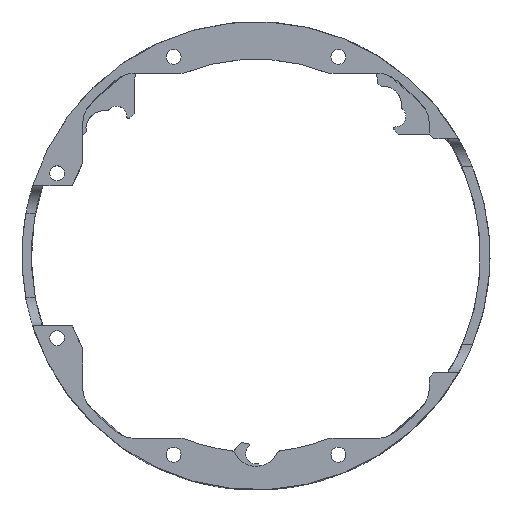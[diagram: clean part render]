
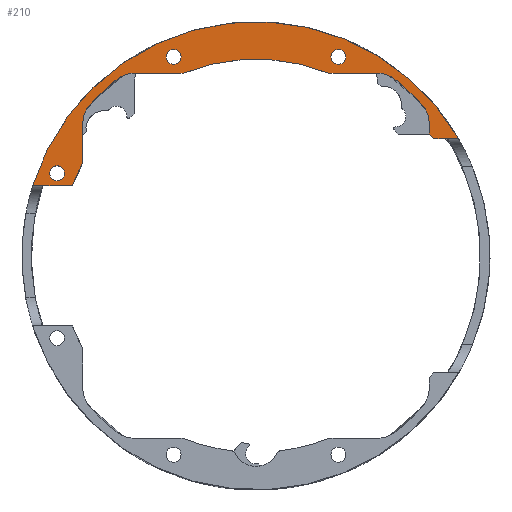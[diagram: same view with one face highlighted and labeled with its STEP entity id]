
A CAD part, top view. The second image highlights one B-rep face of the part: STEP entity #210.
In plain terms, the highlighted planar face has unit normal (0, 0, 1).
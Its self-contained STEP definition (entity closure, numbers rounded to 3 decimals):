
#105=PLANE('',#2824);
#165=FACE_BOUND('',#564,.T.);
#166=FACE_BOUND('',#565,.T.);
#167=FACE_BOUND('',#566,.T.);
#168=FACE_BOUND('',#567,.T.);
#210=ADVANCED_FACE('',(#165,#166,#167,#168),#105,.T.);
#564=EDGE_LOOP('',(#1330,#1331,#1332,#1333,#1334,#1335,#1336,#1337,#1338,
#1339,#1340,#1341,#1342,#1343,#1344,#1345));
#565=EDGE_LOOP('',(#1346));
#566=EDGE_LOOP('',(#1347));
#567=EDGE_LOOP('',(#1348));
#780=LINE('',#4614,#968);
#781=LINE('',#4617,#969);
#782=LINE('',#4619,#970);
#783=LINE('',#4620,#971);
#784=LINE('',#4621,#972);
#785=LINE('',#4626,#973);
#786=LINE('',#4630,#974);
#968=VECTOR('',#3359,1.);
#969=VECTOR('',#3360,1.);
#970=VECTOR('',#3361,1.);
#971=VECTOR('',#3362,1.);
#972=VECTOR('',#3363,1.);
#973=VECTOR('',#3368,1.);
#974=VECTOR('',#3371,1.);
#1330=ORIENTED_EDGE('',*,*,#2343,.F.);
#1331=ORIENTED_EDGE('',*,*,#2344,.T.);
#1332=ORIENTED_EDGE('',*,*,#2345,.F.);
#1333=ORIENTED_EDGE('',*,*,#2132,.F.);
#1334=ORIENTED_EDGE('',*,*,#2346,.F.);
#1335=ORIENTED_EDGE('',*,*,#2251,.T.);
#1336=ORIENTED_EDGE('',*,*,#2347,.F.);
#1337=ORIENTED_EDGE('',*,*,#2348,.T.);
#1338=ORIENTED_EDGE('',*,*,#2182,.F.);
#1339=ORIENTED_EDGE('',*,*,#2349,.T.);
#1340=ORIENTED_EDGE('',*,*,#2350,.F.);
#1341=ORIENTED_EDGE('',*,*,#2351,.T.);
#1342=ORIENTED_EDGE('',*,*,#2352,.F.);
#1343=ORIENTED_EDGE('',*,*,#2353,.T.);
#1344=ORIENTED_EDGE('',*,*,#2178,.F.);
#1345=ORIENTED_EDGE('',*,*,#2354,.T.);
#1346=ORIENTED_EDGE('',*,*,#2355,.T.);
#1347=ORIENTED_EDGE('',*,*,#2356,.T.);
#1348=ORIENTED_EDGE('',*,*,#2357,.T.);
#1873=VERTEX_POINT('',#3865);
#1874=VERTEX_POINT('',#3867);
#1918=VERTEX_POINT('',#4137);
#1919=VERTEX_POINT('',#4139);
#1922=VERTEX_POINT('',#4145);
#1923=VERTEX_POINT('',#4147);
#1981=VERTEX_POINT('',#4424);
#1984=VERTEX_POINT('',#4433);
#2054=VERTEX_POINT('',#4615);
#2055=VERTEX_POINT('',#4616);
#2056=VERTEX_POINT('',#4618);
#2057=VERTEX_POINT('',#4622);
#2058=VERTEX_POINT('',#4625);
#2059=VERTEX_POINT('',#4627);
#2060=VERTEX_POINT('',#4629);
#2061=VERTEX_POINT('',#4631);
#2062=VERTEX_POINT('',#4635);
#2063=VERTEX_POINT('',#4637);
#2064=VERTEX_POINT('',#4639);
#2132=EDGE_CURVE('',#1873,#1874,#2517,.T.);
#2178=EDGE_CURVE('',#1918,#1919,#2534,.T.);
#2182=EDGE_CURVE('',#1922,#1923,#2536,.T.);
#2251=EDGE_CURVE('',#1981,#1984,#2567,.T.);
#2343=EDGE_CURVE('',#2054,#2055,#780,.T.);
#2344=EDGE_CURVE('',#2054,#2056,#781,.T.);
#2345=EDGE_CURVE('',#1874,#2056,#782,.T.);
#2346=EDGE_CURVE('',#1981,#1873,#783,.T.);
#2347=EDGE_CURVE('',#2057,#1984,#784,.T.);
#2348=EDGE_CURVE('',#2057,#1923,#2622,.T.);
#2349=EDGE_CURVE('',#1922,#2058,#2623,.T.);
#2350=EDGE_CURVE('',#2059,#2058,#785,.T.);
#2351=EDGE_CURVE('',#2059,#2060,#2624,.T.);
#2352=EDGE_CURVE('',#2061,#2060,#786,.T.);
#2353=EDGE_CURVE('',#2061,#1919,#2625,.T.);
#2354=EDGE_CURVE('',#1918,#2055,#2626,.T.);
#2355=EDGE_CURVE('',#2062,#2062,#2627,.T.);
#2356=EDGE_CURVE('',#2063,#2063,#2628,.T.);
#2357=EDGE_CURVE('',#2064,#2064,#2629,.T.);
#2517=CIRCLE('',#2687,25.);
#2534=CIRCLE('',#2705,24.);
#2536=CIRCLE('',#2707,24.);
#2567=CIRCLE('',#2742,21.);
#2622=CIRCLE('',#2816,3.);
#2623=CIRCLE('',#2817,3.);
#2624=CIRCLE('',#2818,21.);
#2625=CIRCLE('',#2819,3.);
#2626=CIRCLE('',#2820,3.);
#2627=CIRCLE('',#2821,0.8);
#2628=CIRCLE('',#2822,0.8);
#2629=CIRCLE('',#2823,0.8);
#2687=AXIS2_PLACEMENT_3D('',#3866,#3019,#3020);
#2705=AXIS2_PLACEMENT_3D('',#4138,#3072,#3073);
#2707=AXIS2_PLACEMENT_3D('',#4146,#3078,#3079);
#2742=AXIS2_PLACEMENT_3D('',#4434,#3174,#3175);
#2816=AXIS2_PLACEMENT_3D('',#4623,#3364,#3365);
#2817=AXIS2_PLACEMENT_3D('',#4624,#3366,#3367);
#2818=AXIS2_PLACEMENT_3D('',#4628,#3369,#3370);
#2819=AXIS2_PLACEMENT_3D('',#4632,#3372,#3373);
#2820=AXIS2_PLACEMENT_3D('',#4633,#3374,#3375);
#2821=AXIS2_PLACEMENT_3D('',#4634,#3376,#3377);
#2822=AXIS2_PLACEMENT_3D('',#4636,#3378,#3379);
#2823=AXIS2_PLACEMENT_3D('',#4638,#3380,#3381);
#2824=AXIS2_PLACEMENT_3D('',#4640,#3382,#3383);
#3019=DIRECTION('',(0.,0.,-1.));
#3020=DIRECTION('',(-1.,0.,0.));
#3072=DIRECTION('',(0.,0.,1.));
#3073=DIRECTION('',(1.,0.,0.));
#3078=DIRECTION('',(0.,0.,1.));
#3079=DIRECTION('',(1.,0.,0.));
#3174=DIRECTION('',(0.,0.,-1.));
#3175=DIRECTION('',(-1.,0.,0.));
#3359=DIRECTION('',(0.,1.,0.));
#3360=DIRECTION('',(0.707,-0.707,0.));
#3361=DIRECTION('',(-1.,0.,0.));
#3362=DIRECTION('',(-1.,0.,0.));
#3363=DIRECTION('',(0.,-1.,0.));
#3364=DIRECTION('',(0.,0.,-1.));
#3365=DIRECTION('',(1.,0.,0.));
#3366=DIRECTION('',(0.,0.,-1.));
#3367=DIRECTION('',(1.,0.,0.));
#3368=DIRECTION('',(-1.,0.,0.));
#3369=DIRECTION('',(0.,0.,-1.));
#3370=DIRECTION('',(-1.,0.,0.));
#3371=DIRECTION('',(-1.,0.,0.));
#3372=DIRECTION('',(0.,0.,-1.));
#3373=DIRECTION('',(1.,0.,0.));
#3374=DIRECTION('',(0.,0.,-1.));
#3375=DIRECTION('',(1.,0.,0.));
#3376=DIRECTION('',(0.,0.,-1.));
#3377=DIRECTION('',(-1.,0.,0.));
#3378=DIRECTION('',(0.,0.,-1.));
#3379=DIRECTION('',(-1.,0.,0.));
#3380=DIRECTION('',(0.,0.,-1.));
#3381=DIRECTION('',(-1.,0.,0.));
#3382=DIRECTION('',(0.,0.,1.));
#3383=DIRECTION('',(1.,0.,0.));
#3865=CARTESIAN_POINT('',(-23.848,7.5,28.7));
#3866=CARTESIAN_POINT('',(0.,0.,28.7));
#3867=CARTESIAN_POINT('',(21.651,12.5,28.7));
#4137=CARTESIAN_POINT('',(17.714,16.193,28.7));
#4138=CARTESIAN_POINT('',(0.,0.,28.7));
#4139=CARTESIAN_POINT('',(14.846,18.857,28.7));
#4145=CARTESIAN_POINT('',(-14.846,18.857,28.7));
#4146=CARTESIAN_POINT('',(0.,0.,28.7));
#4147=CARTESIAN_POINT('',(-17.714,16.193,28.7));
#4424=CARTESIAN_POINT('',(-19.615,7.5,28.7));
#4433=CARTESIAN_POINT('',(-18.5,9.937,28.7));
#4434=CARTESIAN_POINT('',(0.,0.,28.7));
#4614=CARTESIAN_POINT('',(18.5,12.5,28.7));
#4615=CARTESIAN_POINT('',(18.5,13.,28.7));
#4616=CARTESIAN_POINT('',(18.5,14.169,28.7));
#4617=CARTESIAN_POINT('',(3.25,28.25,28.7));
#4618=CARTESIAN_POINT('',(19.,12.5,28.7));
#4619=CARTESIAN_POINT('',(21.651,12.5,28.7));
#4620=CARTESIAN_POINT('',(0.,7.5,28.7));
#4621=CARTESIAN_POINT('',(-18.5,15.289,28.7));
#4622=CARTESIAN_POINT('',(-18.5,14.169,28.7));
#4623=CARTESIAN_POINT('',(-15.5,14.169,28.7));
#4624=CARTESIAN_POINT('',(-12.99,16.5,28.7));
#4625=CARTESIAN_POINT('',(-12.99,19.5,28.7));
#4626=CARTESIAN_POINT('',(13.991,19.5,28.7));
#4627=CARTESIAN_POINT('',(-7.794,19.5,28.7));
#4628=CARTESIAN_POINT('',(0.,0.,28.7));
#4629=CARTESIAN_POINT('',(7.794,19.5,28.7));
#4630=CARTESIAN_POINT('',(13.991,19.5,28.7));
#4631=CARTESIAN_POINT('',(12.99,19.5,28.7));
#4632=CARTESIAN_POINT('',(12.99,16.5,28.7));
#4633=CARTESIAN_POINT('',(15.5,14.169,28.7));
#4634=CARTESIAN_POINT('',(-8.802,21.249,28.7));
#4635=CARTESIAN_POINT('',(-9.602,21.249,28.7));
#4636=CARTESIAN_POINT('',(-21.249,8.802,28.7));
#4637=CARTESIAN_POINT('',(-22.049,8.802,28.7));
#4638=CARTESIAN_POINT('',(8.802,21.249,28.7));
#4639=CARTESIAN_POINT('',(8.002,21.249,28.7));
#4640=CARTESIAN_POINT('',(0.,25.,28.7));
